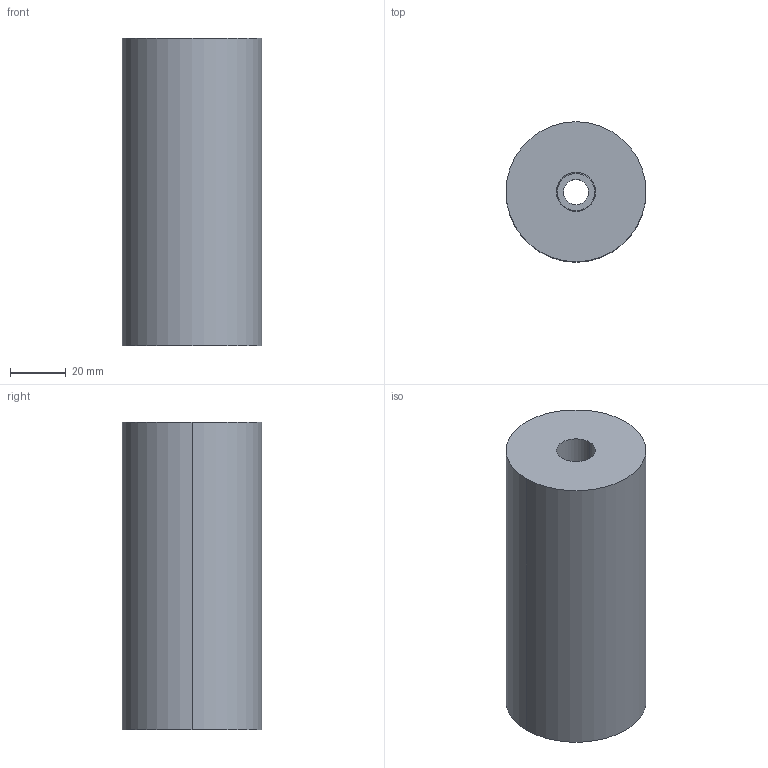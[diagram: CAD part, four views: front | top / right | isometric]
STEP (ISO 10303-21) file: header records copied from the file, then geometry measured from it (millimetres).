
FILE_DESCRIPTION(/* description */ (''),/* implementation_level */ '2;1');
FILE_NAME(/* name */ '3d_est50-110_07017_r00.stp',/* time_stamp */ '2011-01-10T14:15:39+09:00',/* author */ ('MISUMI'),/* organization */ (''),/* preprocessor_version */ 'ST-DEVELOPER v11',/* originating_system */ 'UGS - NX 5.0',/* authorisation */ '');
FILE_SCHEMA (('CONFIG_CONTROL_DESIGN'));
Length unit declared in the file: millimetre
Products named in the file (1): 3d_est50-110_07017_r00
Bounding box: 50 x 50 x 110 mm (x, y, z)
Volume: 202991.6 mm3; surface area: 28355.9 mm2
Topology: 2 solids, 2 shells, 19 faces, 38 edges, 24 vertices
Faces by surface type: cylinder 10, plane 5, cone 4
Entity records: 596 total; most frequent: DIRECTION 102, CARTESIAN_POINT 82, ORIENTED_EDGE 76, AXIS2_PLACEMENT_3D 44, EDGE_CURVE 38, EDGE_LOOP 24, VERTEX_POINT 24, CIRCLE 24
